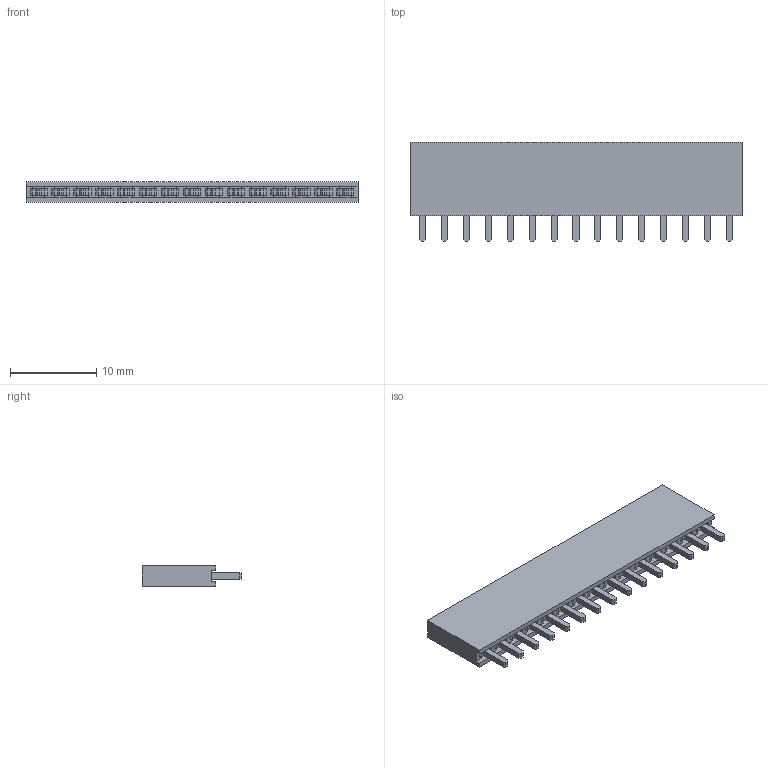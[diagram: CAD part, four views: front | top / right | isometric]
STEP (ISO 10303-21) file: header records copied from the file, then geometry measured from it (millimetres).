
FILE_DESCRIPTION (( 'STEP AP214' ), '1' );
FILE_NAME ('100mill Female Pin Header_15P_Bk.STEP', '2026-02-28T15:35:19', ( '' ), ( '' ), 'SwSTEP 2.0', 'SolidWorks 2024', '' );
FILE_SCHEMA (( 'AUTOMOTIVE_DESIGN' ));
Length unit declared in the file: millimetre
Products named in the file (1): 100mill Female Pin Header_15P_Bk
Bounding box: 38.5 x 11.5 x 2.4 mm (x, y, z)
Volume: 612.8 mm3; surface area: 2235.2 mm2
Topology: 16 solids, 16 shells, 655 faces, 1809 edges, 1186 vertices
Faces by surface type: plane 505, cylinder 75, bspline 75
Entity records: 26831 total; most frequent: CARTESIAN_POINT 6786, ORIENTED_EDGE 3618, DIRECTION 2911, EDGE_CURVE 1809, LINE 1449, VECTOR 1449, VERTEX_POINT 1186, AXIS2_PLACEMENT_3D 731
